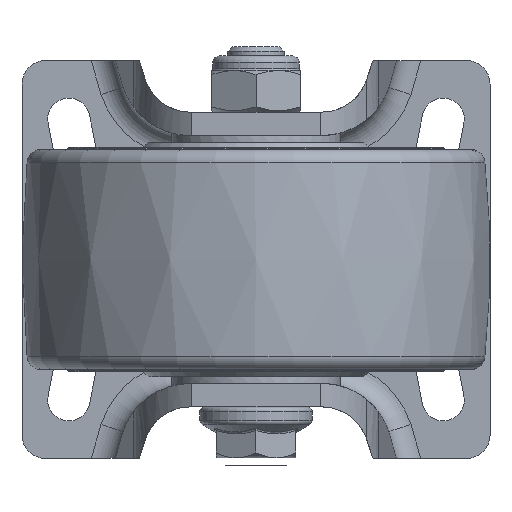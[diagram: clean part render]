
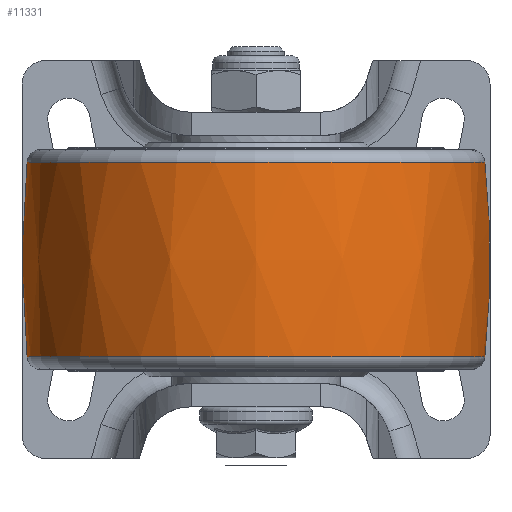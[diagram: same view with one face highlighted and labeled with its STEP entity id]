
A CAD part, front view. The second image highlights one B-rep face of the part: STEP entity #11331.
In plain terms, the highlighted free-form (B-spline) face has degree [2, 2] with [3, 9] control points.
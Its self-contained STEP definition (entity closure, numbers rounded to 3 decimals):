
#66=(
BOUNDED_SURFACE()
B_SPLINE_SURFACE(2,2,((#20196,#20197,#20198,#20199,#20200,#20201,#20202,
#20203,#20204),(#20205,#20206,#20207,#20208,#20209,#20210,#20211,#20212,
#20213),(#20214,#20215,#20216,#20217,#20218,#20219,#20220,#20221,#20222)),
 .UNSPECIFIED.,.F.,.T.,.F.)
B_SPLINE_SURFACE_WITH_KNOTS((3,3),(3,2,2,2,3),(-0.104,0.104),
(-3.142,-1.571,0.,1.571,3.142),
 .UNSPECIFIED.)
GEOMETRIC_REPRESENTATION_ITEM()
RATIONAL_B_SPLINE_SURFACE(((1.,0.707,1.,0.707,1.,
0.707,1.,0.707,1.),(0.995,0.703,
0.995,0.703,0.995,0.703,
0.995,0.703,0.995),(1.,0.707,
1.,0.707,1.,0.707,1.,0.707,1.)))
REPRESENTATION_ITEM('')
SURFACE()
);
#3447=FACE_OUTER_BOUND('',#4119,.T.);
#4119=EDGE_LOOP('',(#10280,#10281,#10282,#10283,#10284,#10285));
#4343=CIRCLE('',#11912,48.914);
#4344=CIRCLE('',#11913,48.914);
#4345=CIRCLE('',#11914,48.914);
#4346=CIRCLE('',#11915,200.);
#4347=CIRCLE('',#11916,48.914);
#5415=VERTEX_POINT('',#20191);
#5416=VERTEX_POINT('',#20193);
#5417=VERTEX_POINT('',#20223);
#5418=VERTEX_POINT('',#20224);
#7046=EDGE_CURVE('',#5415,#5416,#4343,.T.);
#7047=EDGE_CURVE('',#5416,#5415,#4344,.T.);
#7048=EDGE_CURVE('',#5417,#5418,#4345,.T.);
#7049=EDGE_CURVE('',#5418,#5416,#4346,.T.);
#7050=EDGE_CURVE('',#5418,#5417,#4347,.T.);
#10280=ORIENTED_EDGE('',*,*,#7048,.T.);
#10281=ORIENTED_EDGE('',*,*,#7049,.T.);
#10282=ORIENTED_EDGE('',*,*,#7046,.F.);
#10283=ORIENTED_EDGE('',*,*,#7047,.F.);
#10284=ORIENTED_EDGE('',*,*,#7049,.F.);
#10285=ORIENTED_EDGE('',*,*,#7050,.T.);
#11331=ADVANCED_FACE('',(#3447),#66,.F.);
#11912=AXIS2_PLACEMENT_3D('',#20194,#13884,#13885);
#11913=AXIS2_PLACEMENT_3D('',#20195,#13886,#13887);
#11914=AXIS2_PLACEMENT_3D('',#20225,#13888,#13889);
#11915=AXIS2_PLACEMENT_3D('',#20226,#13890,#13891);
#11916=AXIS2_PLACEMENT_3D('',#20227,#13892,#13893);
#13884=DIRECTION('center_axis',(0.,0.,
-1.));
#13885=DIRECTION('ref_axis',(-0.937,0.349,0.));
#13886=DIRECTION('center_axis',(0.,0.,
-1.));
#13887=DIRECTION('ref_axis',(-0.937,0.349,0.));
#13888=DIRECTION('center_axis',(0.,0.,
-1.));
#13889=DIRECTION('ref_axis',(-0.937,0.349,0.));
#13890=DIRECTION('center_axis',(0.,1.,0.));
#13891=DIRECTION('ref_axis',(1.,0.,0.));
#13892=DIRECTION('center_axis',(0.,0.,
-1.));
#13893=DIRECTION('ref_axis',(-0.937,0.349,0.));
#20191=CARTESIAN_POINT('',(120.303,-124.019,-84.849));
#20193=CARTESIAN_POINT('',(123.37,-106.972,-84.849));
#20194=CARTESIAN_POINT('Origin',(74.456,-106.972,-84.849));
#20195=CARTESIAN_POINT('Origin',(74.456,-106.972,-84.849));
#20196=CARTESIAN_POINT('Ctrl Pts',(123.37,-106.972,-43.225));
#20197=CARTESIAN_POINT('Ctrl Pts',(123.37,-155.886,-43.225));
#20198=CARTESIAN_POINT('Ctrl Pts',(74.456,-155.886,-43.225));
#20199=CARTESIAN_POINT('Ctrl Pts',(25.542,-155.886,-43.225));
#20200=CARTESIAN_POINT('Ctrl Pts',(25.542,-106.972,-43.225));
#20201=CARTESIAN_POINT('Ctrl Pts',(25.542,-58.058,-43.225));
#20202=CARTESIAN_POINT('Ctrl Pts',(74.456,-58.058,-43.225));
#20203=CARTESIAN_POINT('Ctrl Pts',(123.37,-58.058,-43.225));
#20204=CARTESIAN_POINT('Ctrl Pts',(123.37,-106.972,-43.225));
#20205=CARTESIAN_POINT('Ctrl Pts',(125.547,-106.972,-64.037));
#20206=CARTESIAN_POINT('Ctrl Pts',(125.547,-158.064,-64.037));
#20207=CARTESIAN_POINT('Ctrl Pts',(74.456,-158.064,-64.037));
#20208=CARTESIAN_POINT('Ctrl Pts',(23.364,-158.064,-64.037));
#20209=CARTESIAN_POINT('Ctrl Pts',(23.364,-106.972,-64.037));
#20210=CARTESIAN_POINT('Ctrl Pts',(23.364,-55.88,-64.037));
#20211=CARTESIAN_POINT('Ctrl Pts',(74.456,-55.88,-64.037));
#20212=CARTESIAN_POINT('Ctrl Pts',(125.547,-55.88,-64.037));
#20213=CARTESIAN_POINT('Ctrl Pts',(125.547,-106.972,-64.037));
#20214=CARTESIAN_POINT('Ctrl Pts',(123.37,-106.972,-84.849));
#20215=CARTESIAN_POINT('Ctrl Pts',(123.37,-155.886,-84.849));
#20216=CARTESIAN_POINT('Ctrl Pts',(74.456,-155.886,-84.849));
#20217=CARTESIAN_POINT('Ctrl Pts',(25.542,-155.886,-84.849));
#20218=CARTESIAN_POINT('Ctrl Pts',(25.542,-106.972,-84.849));
#20219=CARTESIAN_POINT('Ctrl Pts',(25.542,-58.058,-84.849));
#20220=CARTESIAN_POINT('Ctrl Pts',(74.456,-58.058,-84.849));
#20221=CARTESIAN_POINT('Ctrl Pts',(123.37,-58.058,-84.849));
#20222=CARTESIAN_POINT('Ctrl Pts',(123.37,-106.972,-84.849));
#20223=CARTESIAN_POINT('',(120.303,-124.019,-43.225));
#20224=CARTESIAN_POINT('',(123.37,-106.972,-43.225));
#20225=CARTESIAN_POINT('Origin',(74.456,-106.972,-43.225));
#20226=CARTESIAN_POINT('Origin',(-75.544,-106.972,-64.037));
#20227=CARTESIAN_POINT('Origin',(74.456,-106.972,-43.225));
